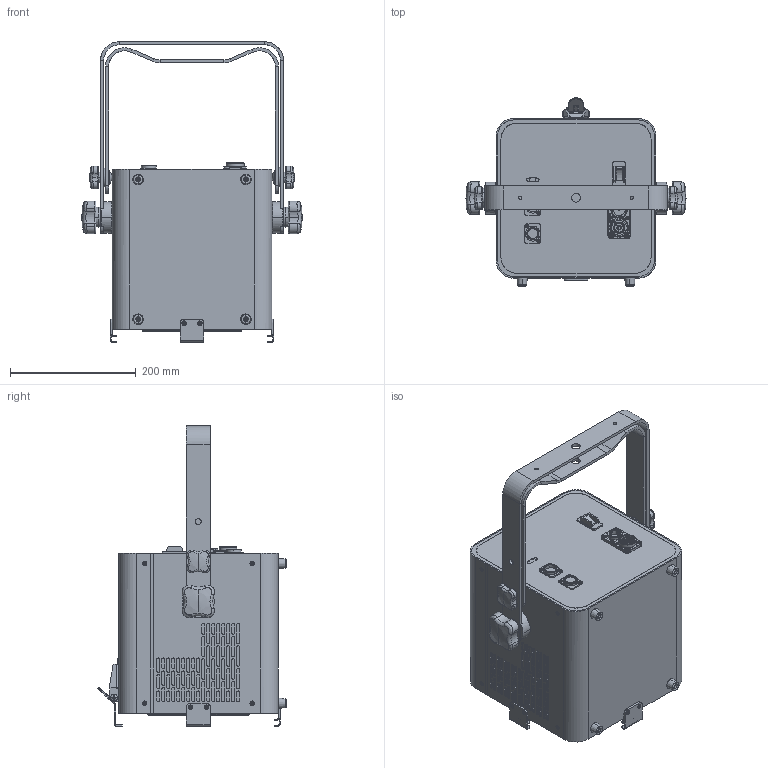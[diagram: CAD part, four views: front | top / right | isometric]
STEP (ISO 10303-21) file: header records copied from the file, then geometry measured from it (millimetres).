
FILE_DESCRIPTION (( 'STEP AP214' ), '1' );
FILE_NAME ('134-114-100 VIOSTROM VSP-120.STEP', '2025-10-17T20:24:04', ( '' ), ( '' ), 'SwSTEP 2.0', 'SolidWorks 2025', '' );
FILE_SCHEMA (( 'AUTOMOTIVE_DESIGN' ));
Length unit declared in the file: inch
Products named in the file (1): 134-114-100 VIOSTROM VSP-120
Bounding box: 350.72 x 299.39 x 478 mm (x, y, z)
Volume: 16742354.8 mm3; surface area: 616253.6 mm2
Topology: 7 solids, 7 shells, 4701 faces, 12173 edges, 7733 vertices
Faces by surface type: plane 2084, cylinder 1028, bspline 725, cone 446, torus 368, sphere 50
Entity records: 196221 total; most frequent: CARTESIAN_POINT 108509, ORIENTED_EDGE 24194, EDGE_CURVE 12097, B_SPLINE_CURVE_WITH_KNOTS 11378, DIRECTION 8320, VERTEX_POINT 7733, EDGE_LOOP 5110, ADVANCED_FACE 4701
